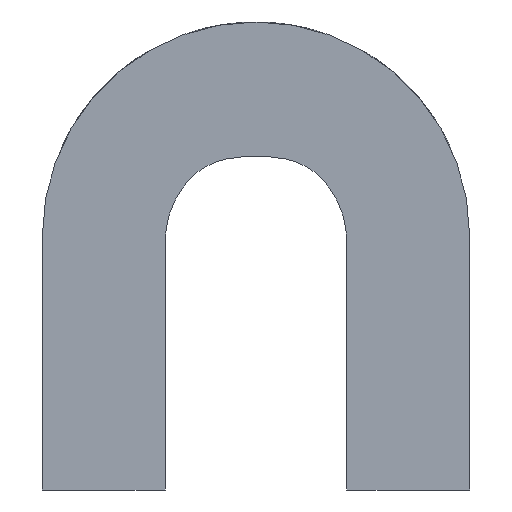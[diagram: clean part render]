
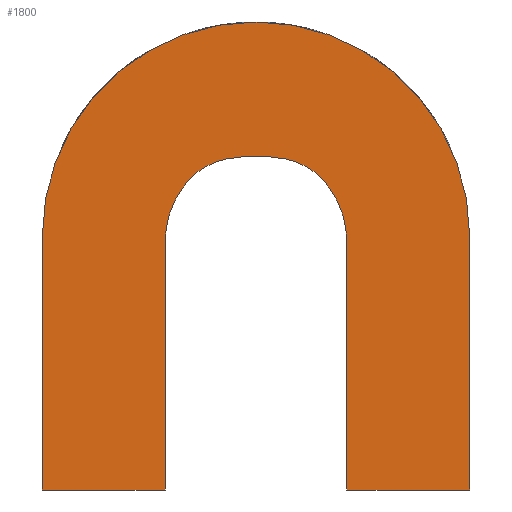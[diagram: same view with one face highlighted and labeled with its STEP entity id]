
A CAD part, front view. The second image highlights one B-rep face of the part: STEP entity #1800.
In plain terms, the highlighted planar face has unit normal (0, -1, 0).
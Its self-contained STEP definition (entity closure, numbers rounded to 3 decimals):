
#174 = VERTEX_POINT('',#175);
#175 = CARTESIAN_POINT('',(-5.357,-74.,63.013));
#181 = EDGE_CURVE('',#182,#174,#184,.T.);
#182 = VERTEX_POINT('',#183);
#183 = CARTESIAN_POINT('',(-5.471,-74.,62.991));
#184 = LINE('',#185,#186);
#185 = CARTESIAN_POINT('',(-10.744,-74.,61.963));
#186 = VECTOR('',#187,1.);
#187 = DIRECTION('',(0.982,0.,0.191));
#315 = EDGE_CURVE('',#174,#316,#318,.T.);
#316 = VERTEX_POINT('',#317);
#317 = CARTESIAN_POINT('',(5.357,-74.,63.013));
#318 = CIRCLE('',#319,28.);
#319 = AXIS2_PLACEMENT_3D('',#320,#321,#322);
#320 = CARTESIAN_POINT('',(0.,-74.,35.531));
#321 = DIRECTION('',(-0.,1.,0.));
#322 = DIRECTION('',(0.,0.,1.));
#340 = EDGE_CURVE('',#341,#316,#343,.T.);
#341 = VERTEX_POINT('',#342);
#342 = CARTESIAN_POINT('',(5.471,-74.,62.991));
#343 = LINE('',#344,#345);
#344 = CARTESIAN_POINT('',(10.744,-74.,61.963));
#345 = VECTOR('',#346,1.);
#346 = DIRECTION('',(-0.982,0.,0.191));
#593 = VERTEX_POINT('',#594);
#594 = CARTESIAN_POINT('',(17.,-74.,1.));
#600 = EDGE_CURVE('',#593,#601,#603,.T.);
#601 = VERTEX_POINT('',#602);
#602 = CARTESIAN_POINT('',(17.,-74.,47.522));
#603 = LINE('',#604,#605);
#604 = CARTESIAN_POINT('',(17.,-74.,1.));
#605 = VECTOR('',#606,1.);
#606 = DIRECTION('',(0.,0.,1.));
#699 = VERTEX_POINT('',#700);
#700 = CARTESIAN_POINT('',(40.,-74.,1.));
#706 = EDGE_CURVE('',#699,#593,#707,.T.);
#707 = LINE('',#708,#709);
#708 = CARTESIAN_POINT('',(40.,-74.,1.));
#709 = VECTOR('',#710,1.);
#710 = DIRECTION('',(-1.,0.,0.));
#744 = EDGE_CURVE('',#745,#699,#747,.T.);
#745 = VERTEX_POINT('',#746);
#746 = CARTESIAN_POINT('',(40.,-74.,48.623));
#747 = LINE('',#748,#749);
#748 = CARTESIAN_POINT('',(40.,-74.,48.623));
#749 = VECTOR('',#750,1.);
#750 = DIRECTION('',(0.,0.,-1.));
#915 = VERTEX_POINT('',#916);
#916 = CARTESIAN_POINT('',(-40.,-74.,48.623));
#922 = EDGE_CURVE('',#923,#915,#925,.T.);
#923 = VERTEX_POINT('',#924);
#924 = CARTESIAN_POINT('',(0.,-74.,88.623));
#925 = CIRCLE('',#926,40.);
#926 = AXIS2_PLACEMENT_3D('',#927,#928,#929);
#927 = CARTESIAN_POINT('',(0.,-74.,48.623));
#928 = DIRECTION('',(0.,-1.,0.));
#929 = DIRECTION('',(1.,0.,0.));
#931 = EDGE_CURVE('',#923,#745,#932,.T.);
#932 = CIRCLE('',#933,40.);
#933 = AXIS2_PLACEMENT_3D('',#934,#935,#936);
#934 = CARTESIAN_POINT('',(0.,-74.,48.623));
#935 = DIRECTION('',(0.,1.,0.));
#936 = DIRECTION('',(-1.,0.,0.));
#1466 = VERTEX_POINT('',#1467);
#1467 = CARTESIAN_POINT('',(-40.,-74.,1.));
#1473 = EDGE_CURVE('',#915,#1466,#1474,.T.);
#1474 = LINE('',#1475,#1476);
#1475 = CARTESIAN_POINT('',(-40.,-74.,48.623));
#1476 = VECTOR('',#1477,1.);
#1477 = DIRECTION('',(0.,0.,-1.));
#1590 = VERTEX_POINT('',#1591);
#1591 = CARTESIAN_POINT('',(-17.,-74.,1.));
#1597 = EDGE_CURVE('',#1466,#1590,#1598,.T.);
#1598 = LINE('',#1599,#1600);
#1599 = CARTESIAN_POINT('',(-40.,-74.,1.));
#1600 = VECTOR('',#1601,1.);
#1601 = DIRECTION('',(1.,0.,0.));
#1668 = VERTEX_POINT('',#1669);
#1669 = CARTESIAN_POINT('',(-17.,-74.,47.522));
#1675 = EDGE_CURVE('',#1590,#1668,#1676,.T.);
#1676 = LINE('',#1677,#1678);
#1677 = CARTESIAN_POINT('',(-17.,-74.,1.));
#1678 = VECTOR('',#1679,1.);
#1679 = DIRECTION('',(0.,0.,1.));
#1800 = ADVANCED_FACE('',(#1801),#1862,.T.);
#1801 = FACE_BOUND('',#1802,.T.);
#1802 = EDGE_LOOP('',(#1803,#1804,#1805,#1806,#1815,#1823,#1830,#1831,
    #1832,#1833,#1834,#1835,#1836,#1837,#1838,#1847,#1855));
#1803 = ORIENTED_EDGE('',*,*,#181,.T.);
#1804 = ORIENTED_EDGE('',*,*,#315,.T.);
#1805 = ORIENTED_EDGE('',*,*,#340,.F.);
#1806 = ORIENTED_EDGE('',*,*,#1807,.T.);
#1807 = EDGE_CURVE('',#341,#1808,#1810,.T.);
#1808 = VERTEX_POINT('',#1809);
#1809 = CARTESIAN_POINT('',(13.606,-74.,57.727));
#1810 = CIRCLE('',#1811,13.);
#1811 = AXIS2_PLACEMENT_3D('',#1812,#1813,#1814);
#1812 = CARTESIAN_POINT('',(2.984,-74.,50.231));
#1813 = DIRECTION('',(0.,1.,0.));
#1814 = DIRECTION('',(0.,0.,-1.));
#1815 = ORIENTED_EDGE('',*,*,#1816,.F.);
#1816 = EDGE_CURVE('',#1817,#1808,#1819,.T.);
#1817 = VERTEX_POINT('',#1818);
#1818 = CARTESIAN_POINT('',(13.89,-74.,57.324));
#1819 = LINE('',#1820,#1821);
#1820 = CARTESIAN_POINT('',(17.,-74.,52.916));
#1821 = VECTOR('',#1822,1.);
#1822 = DIRECTION('',(-0.577,0.,0.817));
#1823 = ORIENTED_EDGE('',*,*,#1824,.T.);
#1824 = EDGE_CURVE('',#1817,#601,#1825,.T.);
#1825 = CIRCLE('',#1826,17.);
#1826 = AXIS2_PLACEMENT_3D('',#1827,#1828,#1829);
#1827 = CARTESIAN_POINT('',(0.,-74.,47.522));
#1828 = DIRECTION('',(0.,1.,0.));
#1829 = DIRECTION('',(0.,0.,-1.));
#1830 = ORIENTED_EDGE('',*,*,#600,.F.);
#1831 = ORIENTED_EDGE('',*,*,#706,.F.);
#1832 = ORIENTED_EDGE('',*,*,#744,.F.);
#1833 = ORIENTED_EDGE('',*,*,#931,.F.);
#1834 = ORIENTED_EDGE('',*,*,#922,.T.);
#1835 = ORIENTED_EDGE('',*,*,#1473,.T.);
#1836 = ORIENTED_EDGE('',*,*,#1597,.T.);
#1837 = ORIENTED_EDGE('',*,*,#1675,.T.);
#1838 = ORIENTED_EDGE('',*,*,#1839,.F.);
#1839 = EDGE_CURVE('',#1840,#1668,#1842,.T.);
#1840 = VERTEX_POINT('',#1841);
#1841 = CARTESIAN_POINT('',(-13.89,-74.,57.324));
#1842 = CIRCLE('',#1843,17.);
#1843 = AXIS2_PLACEMENT_3D('',#1844,#1845,#1846);
#1844 = CARTESIAN_POINT('',(0.,-74.,47.522));
#1845 = DIRECTION('',(0.,-1.,0.));
#1846 = DIRECTION('',(0.,0.,-1.));
#1847 = ORIENTED_EDGE('',*,*,#1848,.T.);
#1848 = EDGE_CURVE('',#1840,#1849,#1851,.T.);
#1849 = VERTEX_POINT('',#1850);
#1850 = CARTESIAN_POINT('',(-13.606,-74.,57.727));
#1851 = LINE('',#1852,#1853);
#1852 = CARTESIAN_POINT('',(-17.,-74.,52.916));
#1853 = VECTOR('',#1854,1.);
#1854 = DIRECTION('',(0.577,0.,0.817));
#1855 = ORIENTED_EDGE('',*,*,#1856,.F.);
#1856 = EDGE_CURVE('',#182,#1849,#1857,.T.);
#1857 = CIRCLE('',#1858,13.);
#1858 = AXIS2_PLACEMENT_3D('',#1859,#1860,#1861);
#1859 = CARTESIAN_POINT('',(-2.984,-74.,50.231));
#1860 = DIRECTION('',(0.,-1.,0.));
#1861 = DIRECTION('',(0.,0.,-1.));
#1862 = PLANE('',#1863);
#1863 = AXIS2_PLACEMENT_3D('',#1864,#1865,#1866);
#1864 = CARTESIAN_POINT('',(0.,-74.,41.));
#1865 = DIRECTION('',(-0.,-1.,-0.));
#1866 = DIRECTION('',(0.,0.,-1.));
